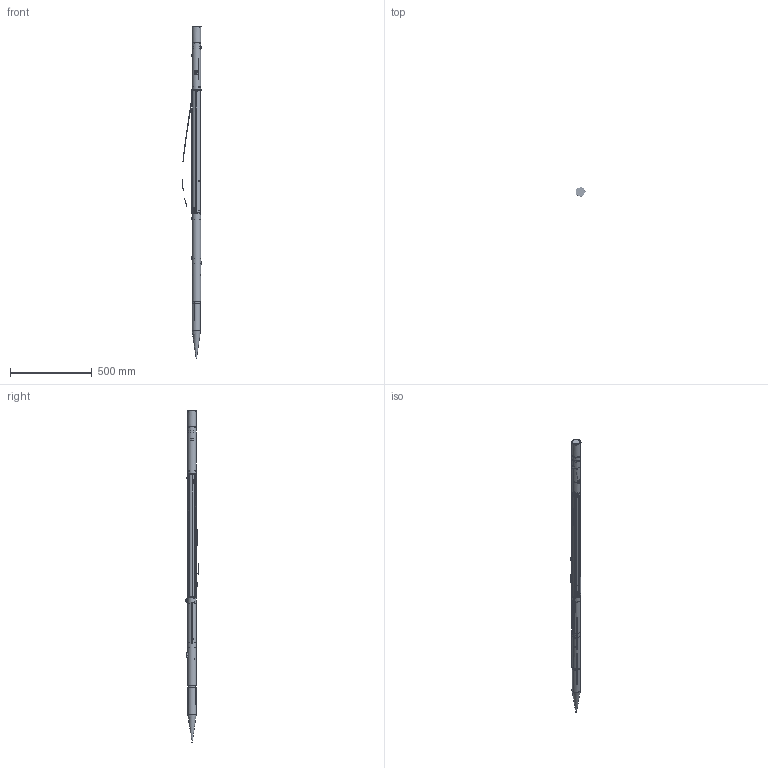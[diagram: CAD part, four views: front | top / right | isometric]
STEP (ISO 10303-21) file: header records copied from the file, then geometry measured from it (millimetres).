
FILE_DESCRIPTION(('Open CASCADE Model'),'2;1');
FILE_NAME('Open CASCADE Shape Model','2026-08-24T14:29:44',('Author'),( 'Open CASCADE'),'Open CASCADE STEP processor 7.9','Open CASCADE 7.9' ,'Unknown');
FILE_SCHEMA(('AP242_MANAGED_MODEL_BASED_3D_ENGINEERING_MIM_LF {1 0 10303 442 1 1 4 }' ));
Length unit declared in the file: millimetre
Products named in the file (135): Stingray_Stowed_Inspection_Assembly; Forward_Body_Assembly; Penetrator_Nose_W; Forward_Ballast_W; Forward_Shell_TI; PRIMARY_STRUCTURAL_TRANSITION_RING_WITH_FOUR_TAPPED_CARRIER_LANDS_TI; STRUCTURAL_RING_WITH_ROUTE_PASSAGES_ARM_RELIEFS_AND_FULLFLOW_CIRCLIP_
REACTION_CAGE_TI; FORWARD_PRIMARY_LOAD-PATH_LONGERON_TI_01; Leland_CO2_Cylinder_89200_01; Leland_65026_InterfaceEnvelope_PROXY_01; Forward_Cylinder_Support_PEEK_01; Forward_Cylinder_Retainer_TI_02; Commercial_HP_Hose_Assembly_PROXY_01; Commercial_Pressure_Control_PROXY_01; Qualified_LOW-PRESSURE-BRANCH; Qualified_LOW-PRESSURE-BRANCH-B; Low_Pressure_Common_Feed_SS; Commercial_LowPressure_Flow_Control_PROXY; Dual_Release_Trigger_Housing_AC; Halkey_Roberts_Water_Bobbin_V80040; Water_Authorization_Inlet_SS; PROTECTED_NON-PRESSURE_AUTHORIZATION_GUIDE_PTFE; Dual_Release_Equalizer_SS; Dual_Release_Spring_SS; Dual_Release_Transport_Pin_SS; Dual_Release_Output_SS_01; Dual_Release_Output_Guide_SS_01; Dual_Release_Output_Witness_PEEK_01; Forward_Mandatory_Hardware_Assembly; Accu_HTP-3-30-A1; Arm_Activation_Powertrain_Assembly; ANALYTIC_CYLINDRICAL_FIXED_BODY_SECTOR_TI_01; PRIMARY_LONGERON_WITH_TWO_JIG-BORED_ROUTE_CHANNELS_TI_01; FIXED_SECTOR_3_WITH_TWO_RADIAL_M3_BACKUP-GUIDE_HEAD_POCKETS_TI; PRIMARY_LONGERON_3_WITH_TWO_RADIAL_BACKUP-GUIDE_M3_CLEARANCE_BORES_TI; Common_Crosshead_SS; CENTRAL_DLC_CROSSHEAD_GUIDE_SHAFT_WITH_SPIDER_SHOULDER_SS; THREE-SPOKE_CROSSHEAD-GUIDE_FORWARD_MOUNT_TI; CONTROLLED_16_N_MM_GUIDED_BACKUP_COMPRESSION_SPRING_SS; BACKUP_SPRING_AFT_FIXED_SEAT_WITH_LONGERON_MOUNTING_TONGUE_TI ...
Assembly tree (259 placements, depth 4):
  Stingray_Stowed_Inspection_Assembly
    Forward_Body_Assembly
      Penetrator_Nose_W
      Forward_Ballast_W
      Forward_Shell_TI
      PRIMARY_STRUCTURAL_TRANSITION_RING_WITH_FOUR_TAPPED_CARRIER_LANDS_TI
      STRUCTURAL_RING_WITH_ROUTE_PASSAGES_ARM_RELIEFS_AND_FULLFLOW_CIRCLIP_
REACTION_CAGE_TI
      FORWARD_PRIMARY_LOAD-PATH_LONGERON_TI_01  x3
      Leland_CO2_Cylinder_89200_01  x2
      Leland_65026_InterfaceEnvelope_PROXY_01  x2
      Forward_Cylinder_Support_PEEK_01  x6
      Forward_Cylinder_Retainer_TI_02  x2
      Commercial_HP_Hose_Assembly_PROXY_01  x2
      Commercial_Pressure_Control_PROXY_01  x2
      Qualified_LOW-PRESSURE-BRANCH
      Qualified_LOW-PRESSURE-BRANCH-B
      Low_Pressure_Common_Feed_SS
      Commercial_LowPressure_Flow_Control_PROXY
      Dual_Release_Trigger_Housing_AC
      Halkey_Roberts_Water_Bobbin_V80040
      Water_Authorization_Inlet_SS
      PROTECTED_NON-PRESSURE_AUTHORIZATION_GUIDE_PTFE
      Dual_Release_Equalizer_SS
      Dual_Release_Spring_SS
      Dual_Release_Transport_Pin_SS
      Dual_Release_Output_SS_01  x2
      Dual_Release_Output_Guide_SS_01  x2
      Dual_Release_Output_Witness_PEEK_01  x2
      Forward_Mandatory_Hardware_Assembly
        Accu_HTP-3-30-A1
    Arm_Activation_Powertrain_Assembly
      ANALYTIC_CYLINDRICAL_FIXED_BODY_SECTOR_TI_01  x2
      PRIMARY_LONGERON_WITH_TWO_JIG-BORED_ROUTE_CHANNELS_TI_01  x2
      FIXED_SECTOR_3_WITH_TWO_RADIAL_M3_BACKUP-GUIDE_HEAD_POCKETS_TI
      PRIMARY_LONGERON_3_WITH_TWO_RADIAL_BACKUP-GUIDE_M3_CLEARANCE_BORES_TI
      Common_Crosshead_SS
      CENTRAL_DLC_CROSSHEAD_GUIDE_SHAFT_WITH_SPIDER_SHOULDER_SS
      THREE-SPOKE_CROSSHEAD-GUIDE_FORWARD_MOUNT_TI
      CONTROLLED_16_N_MM_GUIDED_BACKUP_COMPRESSION_SPRING_SS
      BACKUP_SPRING_AFT_FIXED_SEAT_WITH_LONGERON_MOUNTING_TONGUE_TI
      BACKUP_SPRING_CROSSHEAD_SEAT_WITH_PILOTED_PERMANENT_LAND_SS
      BACKUP_SPRING_DLC_GUIDE_SHAFT_WITH_TWO_FIXED_SUPPORT_SHOULDERS_SS
      ACE_Gas_Spring_GS-19-50-V4A-B8-B8
      ACE_Gas_Spring_Rod_GS-19-50-V4A-B8-B8
      ACE_Hydraulic_Damper_HBD-15-25-AA-P
      ACE_Hydraulic_Damper_Rod_HBD-15-25-AA-P
      DOUBLE-SHEAR_GS19_ANCHOR_YOKE_WITH_CONFORMAL_LONGERON_TONGUE_TI
      4_MM_CAPTIVE_ACTUATOR_CLEVIS_PIN_SS_01  x4
      4_MM_ACTUATOR_PIN_RETAINER_SS_01  x4
      DOUBLE-SHEAR_HBD_ANCHOR_YOKE_WITH_CONFORMAL_LONGERON_TONGUE_TI
      Gas_Main_SS
      Pilot_Line_SS
      Bowden_Sheath
      Bowden_Wire_SS
      GAS_MAIN_TWO-COLLAR_BULKHEAD_GLAND_SS_02  x2
      PILOT_LINE_TWO-COLLAR_BULKHEAD_GLAND_SS_02  x2
      BOWDEN_SHEATH_TWO-COLLAR_BULKHEAD_GLAND_SS_02  x2
      SPLIT_PEEK_GUIDE_LINER_FOR_GAS_MAIN_LONG_SPAN_PEEK
      SPLIT_PEEK_GUIDE_LINER_FOR_PILOT_LINE_LONG_SPAN_PEEK
      SPLIT_PEEK_GUIDE_LINER_FOR_BOWDEN_SHEATH_LONG_SPAN_PEEK
Bounding box: 117.86 x 77.73 x 2031 mm (x, y, z)
Volume: 2149028.5 mm3; surface area: 1051517.6 mm2
Topology: 266 solids, 266 shells, 4905 faces, 13069 edges, 8788 vertices
Faces by surface type: plane 2853, cylinder 1933, cone 50, torus 28, sphere 21, bspline 20
Full cylindrical faces by diameter (mm): 0.56 x1, 0.7 x3, 0.8 x3, 0.84 x8, 0.9 x7, 1 x3, 1.2 x10, 1.3 x11, 1.44 x6, 1.5 x9, 1.58 x5, 1.6 x11, 1.66 x2, 1.7 x13, 1.76 x2, 1.8 x3, 1.9 x1, 2 x7, 2.16 x2, 2.2 x30, 2.3 x11, 2.5 x38, 2.66 x3, 2.7 x8, 2.8 x2, 2.9 x1, 3 x55, 3.1 x6, 3.2 x7, 3.24 x4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
Entity records: 237854 total; most frequent: CARTESIAN_POINT 109063, DIRECTION 22582, ORIENTED_EDGE 12846, PCURVE 12842, DEFINITIONAL_REPRESENTATION 12842, LINE 9182, VECTOR 9182, EDGE_CURVE 6421
